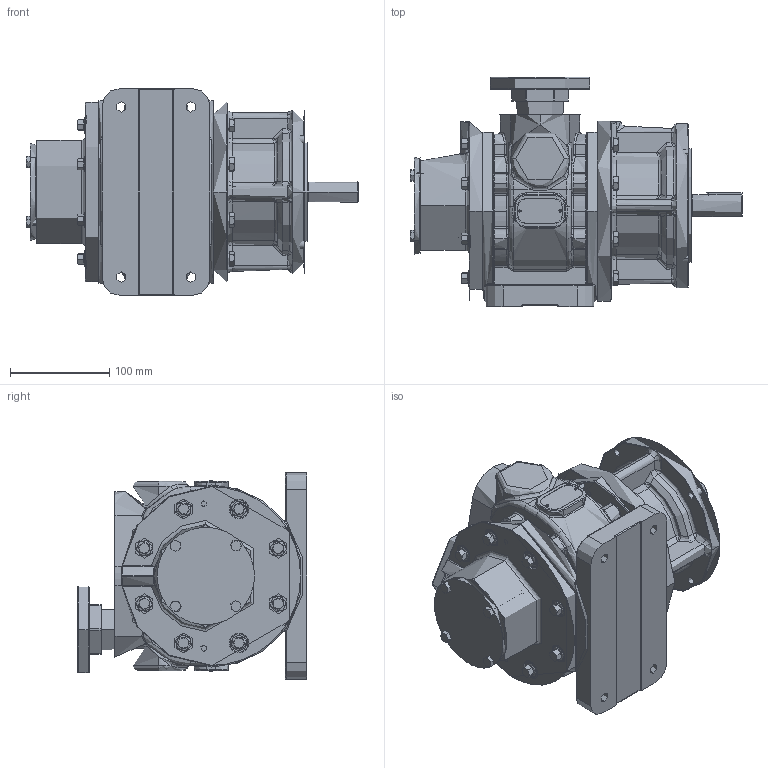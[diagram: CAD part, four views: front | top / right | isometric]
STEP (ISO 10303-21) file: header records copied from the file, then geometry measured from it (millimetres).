
FILE_DESCRIPTION (( 'STEP AP214' ), '1' );
FILE_NAME ('16VMN (Nema)_Solid 29-07-25.STEP', '2025-07-29T08:31:35', ( '' ), ( '' ), 'SwSTEP 2.0', 'SolidWorks 2017', '' );
FILE_SCHEMA (( 'AUTOMOTIVE_DESIGN' ));
Length unit declared in the file: millimetre
Products named in the file (2): 16VMN (Nema)_Solid 29-07-25
Bounding box: 334.36 x 231 x 208 mm (x, y, z)
Topology: 71 solids, 84 shells, 2726 faces, 6339 edges, 3750 vertices
Faces by surface type: cylinder 853, plane 812, cone 441, torus 349, bspline 217, sphere 54
Full cylindrical faces by diameter (mm): 101.5 x1
Entity records: 433212 total; most frequent: CARTESIAN_POINT 209605, ORIENTED_EDGE 34112, DIRECTION 25346, EDGE_CURVE 17056, VERTEX_POINT 10887, EDGE_LOOP 9733, AXIS2_PLACEMENT_3D 9699, B_SPLINE_CURVE_WITH_KNOTS 7480
